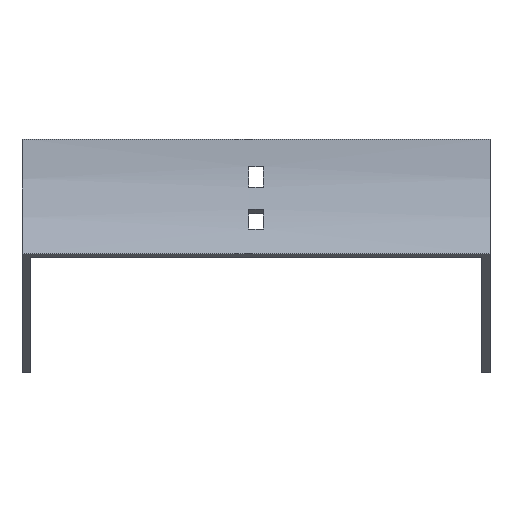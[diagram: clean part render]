
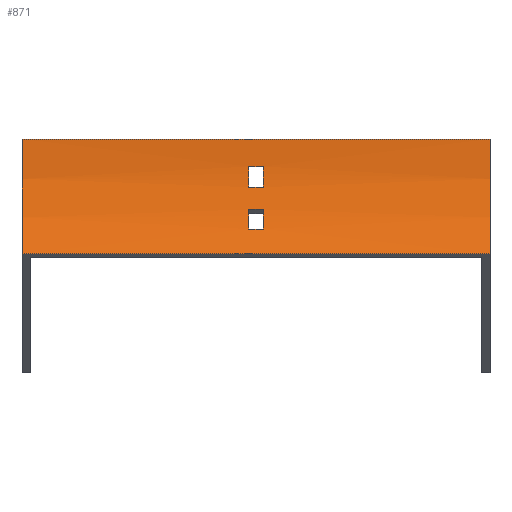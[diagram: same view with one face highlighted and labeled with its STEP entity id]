
A CAD part, front view. The second image highlights one B-rep face of the part: STEP entity #871.
In plain terms, the highlighted cylindrical face has radius 100 mm (diameter 200 mm), a partial arc.
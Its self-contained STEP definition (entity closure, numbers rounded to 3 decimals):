
#16 = CARTESIAN_POINT ( 'NONE',  ( 102., -100., 0. ) ) ;
#20 = CARTESIAN_POINT ( 'NONE',  ( 102., -0.723, -12. ) ) ;
#21 = CARTESIAN_POINT ( 'NONE',  ( 102., -8.023, -39.246 ) ) ;
#22 = CARTESIAN_POINT ( 'NONE',  ( 3.25, -100., 0. ) ) ;
#46 = VERTEX_POINT ( 'NONE', #856 ) ;
#47 = DIRECTION ( 'NONE',  ( -1., 0., 0. ) ) ;
#51 = VERTEX_POINT ( 'NONE', #730 ) ;
#52 = FACE_BOUND ( 'NONE', #1198, .T. ) ;
#67 = VERTEX_POINT ( 'NONE', #1139 ) ;
#72 = CARTESIAN_POINT ( 'NONE',  ( 102., -13.397, -50. ) ) ;
#76 = ORIENTED_EDGE ( 'NONE', *, *, #512, .T. ) ;
#88 = EDGE_CURVE ( 'NONE', #1492, #67, #100, .T. ) ;
#95 = DIRECTION ( 'NONE',  ( -1., 0., 0. ) ) ;
#100 = LINE ( 'NONE', #72, #1391 ) ;
#123 = CARTESIAN_POINT ( 'NONE',  ( -3.25, -2.23, -21. ) ) ;
#143 = VERTEX_POINT ( 'NONE', #870 ) ;
#161 = DIRECTION ( 'NONE',  ( -1., 0., 0. ) ) ;
#180 = FACE_OUTER_BOUND ( 'NONE', #792, .T. ) ;
#181 = EDGE_LOOP ( 'NONE', ( #1367, #814, #403, #1264 ) ) ;
#216 = DIRECTION ( 'NONE',  ( -1., 0., 0. ) ) ;
#255 = DIRECTION ( 'NONE',  ( 1., 0., 0. ) ) ;
#257 = LINE ( 'NONE', #1026, #1643 ) ;
#329 = DIRECTION ( 'NONE',  ( 0., 0., 1. ) ) ;
#332 = CIRCLE ( 'NONE', #601, 100. ) ;
#336 = CIRCLE ( 'NONE', #1181, 100. ) ;
#342 = EDGE_CURVE ( 'NONE', #1519, #806, #1557, .T. ) ;
#387 = DIRECTION ( 'NONE',  ( 1., 0., 0. ) ) ;
#388 = EDGE_CURVE ( 'NONE', #1371, #51, #1430, .T. ) ;
#403 = ORIENTED_EDGE ( 'NONE', *, *, #1289, .F. ) ;
#418 = CIRCLE ( 'NONE', #1589, 100. ) ;
#439 = CYLINDRICAL_SURFACE ( 'NONE', #1533, 100. ) ;
#462 = VECTOR ( 'NONE', #470, 1000. ) ;
#465 = AXIS2_PLACEMENT_3D ( 'NONE', #22, #1389, #693 ) ;
#470 = DIRECTION ( 'NONE',  ( -1., 0., 0. ) ) ;
#489 = DIRECTION ( 'NONE',  ( -1., 0., 0. ) ) ;
#512 = EDGE_CURVE ( 'NONE', #897, #1519, #1378, .T. ) ;
#526 = ORIENTED_EDGE ( 'NONE', *, *, #1095, .F. ) ;
#528 = DIRECTION ( 'NONE',  ( -1., 0., 0. ) ) ;
#543 = CARTESIAN_POINT ( 'NONE',  ( -3.25, -100., 0. ) ) ;
#581 = VECTOR ( 'NONE', #1329, 1000. ) ;
#601 = AXIS2_PLACEMENT_3D ( 'NONE', #732, #95, #1394 ) ;
#639 = ORIENTED_EDGE ( 'NONE', *, *, #819, .T. ) ;
#642 = DIRECTION ( 'NONE',  ( 0., 0., 1. ) ) ;
#658 = VECTOR ( 'NONE', #161, 1000. ) ;
#671 = CARTESIAN_POINT ( 'NONE',  ( 102., -13.397, -50. ) ) ;
#678 = CARTESIAN_POINT ( 'NONE',  ( -102., -100., 0. ) ) ;
#686 = CIRCLE ( 'NONE', #736, 100. ) ;
#687 = DIRECTION ( 'NONE',  ( 0., 0., 1. ) ) ;
#693 = DIRECTION ( 'NONE',  ( 0., 0., 1. ) ) ;
#695 = EDGE_CURVE ( 'NONE', #1584, #863, #257, .T. ) ;
#705 = CARTESIAN_POINT ( 'NONE',  ( 102., -100., 0. ) ) ;
#715 = CIRCLE ( 'NONE', #465, 100. ) ;
#728 = CARTESIAN_POINT ( 'NONE',  ( -3.25, -100., 0. ) ) ;
#730 = CARTESIAN_POINT ( 'NONE',  ( 3.25, -8.023, -39.246 ) ) ;
#732 = CARTESIAN_POINT ( 'NONE',  ( 3.25, -100., 0. ) ) ;
#736 = AXIS2_PLACEMENT_3D ( 'NONE', #16, #528, #786 ) ;
#786 = DIRECTION ( 'NONE',  ( 0., 0., 1. ) ) ;
#792 = EDGE_LOOP ( 'NONE', ( #1038, #1355, #526, #639 ) ) ;
#806 = VERTEX_POINT ( 'NONE', #1333 ) ;
#812 = CARTESIAN_POINT ( 'NONE',  ( 102., 0., 0. ) ) ;
#814 = ORIENTED_EDGE ( 'NONE', *, *, #695, .F. ) ;
#816 = CARTESIAN_POINT ( 'NONE',  ( -3.25, -4.829, -30.699 ) ) ;
#819 = EDGE_CURVE ( 'NONE', #46, #143, #1068, .T. ) ;
#856 = CARTESIAN_POINT ( 'NONE',  ( 102., 0., 0. ) ) ;
#863 = VERTEX_POINT ( 'NONE', #816 ) ;
#870 = CARTESIAN_POINT ( 'NONE',  ( -102., 0., 0. ) ) ;
#871 = ADVANCED_FACE ( 'NONE', ( #180, #52, #954 ), #439, .F. ) ;
#887 = DIRECTION ( 'NONE',  ( -1., 0., 0. ) ) ;
#897 = VERTEX_POINT ( 'NONE', #1625 ) ;
#954 = FACE_BOUND ( 'NONE', #181, .T. ) ;
#968 = VERTEX_POINT ( 'NONE', #989 ) ;
#989 = CARTESIAN_POINT ( 'NONE',  ( 3.25, -0.723, -12. ) ) ;
#996 = EDGE_CURVE ( 'NONE', #968, #897, #332, .T. ) ;
#1026 = CARTESIAN_POINT ( 'NONE',  ( 102., -4.829, -30.699 ) ) ;
#1027 = DIRECTION ( 'NONE',  ( 0., 0., -1. ) ) ;
#1038 = ORIENTED_EDGE ( 'NONE', *, *, #1613, .T. ) ;
#1068 = LINE ( 'NONE', #812, #658 ) ;
#1083 = ORIENTED_EDGE ( 'NONE', *, *, #342, .T. ) ;
#1095 = EDGE_CURVE ( 'NONE', #46, #1492, #686, .T. ) ;
#1115 = CARTESIAN_POINT ( 'NONE',  ( 102., -2.23, -21. ) ) ;
#1139 = CARTESIAN_POINT ( 'NONE',  ( -102., -13.397, -50. ) ) ;
#1175 = AXIS2_PLACEMENT_3D ( 'NONE', #543, #387, #642 ) ;
#1181 = AXIS2_PLACEMENT_3D ( 'NONE', #678, #1321, #329 ) ;
#1198 = EDGE_LOOP ( 'NONE', ( #76, #1083, #1630, #1659 ) ) ;
#1264 = ORIENTED_EDGE ( 'NONE', *, *, #388, .F. ) ;
#1289 = EDGE_CURVE ( 'NONE', #51, #1584, #715, .T. ) ;
#1290 = LINE ( 'NONE', #20, #581 ) ;
#1321 = DIRECTION ( 'NONE',  ( -1., 0., 0. ) ) ;
#1329 = DIRECTION ( 'NONE',  ( 1., 0., 0. ) ) ;
#1333 = CARTESIAN_POINT ( 'NONE',  ( -3.25, -0.723, -12. ) ) ;
#1355 = ORIENTED_EDGE ( 'NONE', *, *, #88, .F. ) ;
#1367 = ORIENTED_EDGE ( 'NONE', *, *, #1429, .F. ) ;
#1371 = VERTEX_POINT ( 'NONE', #1668 ) ;
#1378 = LINE ( 'NONE', #1115, #462 ) ;
#1389 = DIRECTION ( 'NONE',  ( 1., 0., 0. ) ) ;
#1391 = VECTOR ( 'NONE', #489, 1000. ) ;
#1394 = DIRECTION ( 'NONE',  ( 0., 0., -1. ) ) ;
#1421 = VECTOR ( 'NONE', #255, 1000. ) ;
#1429 = EDGE_CURVE ( 'NONE', #863, #1371, #418, .T. ) ;
#1430 = LINE ( 'NONE', #21, #1421 ) ;
#1492 = VERTEX_POINT ( 'NONE', #671 ) ;
#1519 = VERTEX_POINT ( 'NONE', #123 ) ;
#1533 = AXIS2_PLACEMENT_3D ( 'NONE', #705, #47, #687 ) ;
#1557 = CIRCLE ( 'NONE', #1175, 100. ) ;
#1560 = EDGE_CURVE ( 'NONE', #806, #968, #1290, .T. ) ;
#1584 = VERTEX_POINT ( 'NONE', #1692 ) ;
#1589 = AXIS2_PLACEMENT_3D ( 'NONE', #728, #216, #1027 ) ;
#1613 = EDGE_CURVE ( 'NONE', #143, #67, #336, .T. ) ;
#1625 = CARTESIAN_POINT ( 'NONE',  ( 3.25, -2.23, -21. ) ) ;
#1630 = ORIENTED_EDGE ( 'NONE', *, *, #1560, .T. ) ;
#1643 = VECTOR ( 'NONE', #887, 1000. ) ;
#1659 = ORIENTED_EDGE ( 'NONE', *, *, #996, .T. ) ;
#1668 = CARTESIAN_POINT ( 'NONE',  ( -3.25, -8.023, -39.246 ) ) ;
#1692 = CARTESIAN_POINT ( 'NONE',  ( 3.25, -4.829, -30.699 ) ) ;
